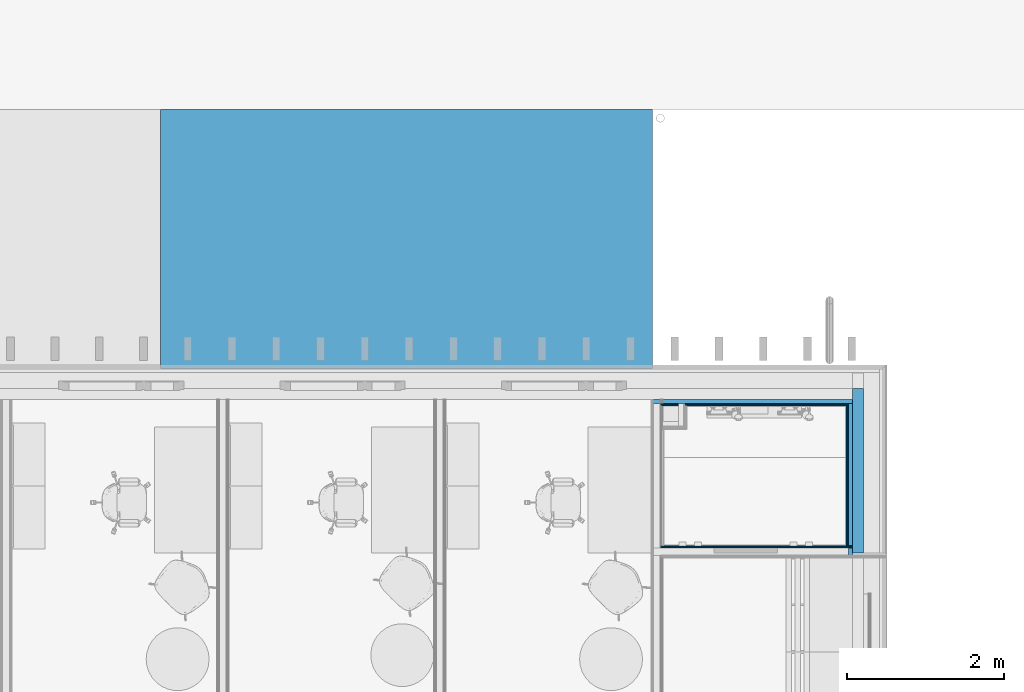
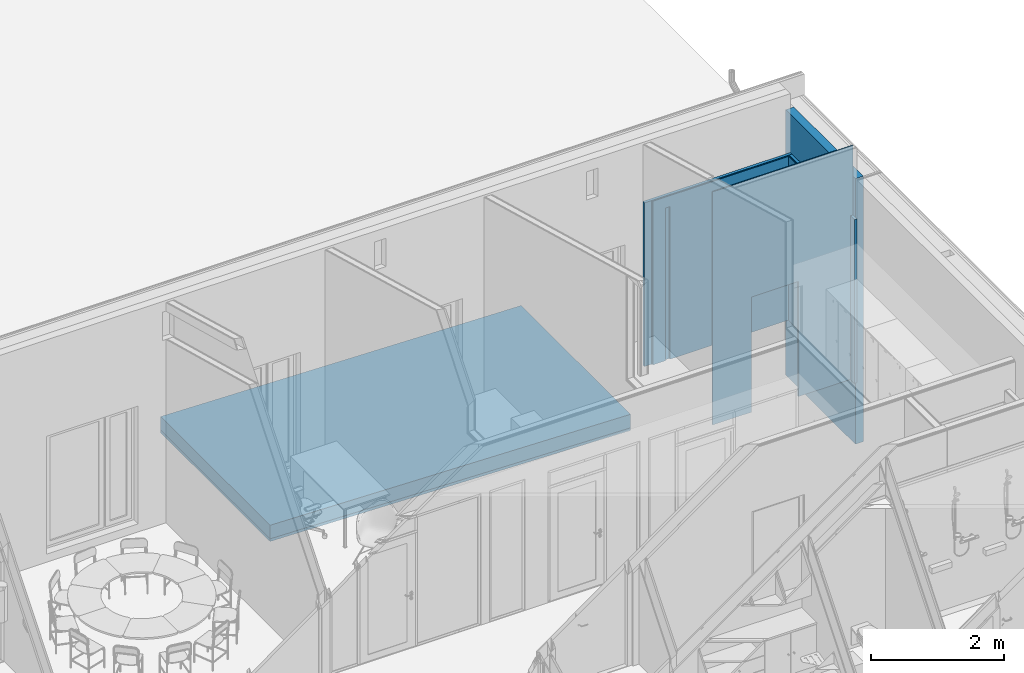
# One storey, part 90 of 153: 11 building element parts, 1 opening, 5 elements without a shape of their own.
"""IFC2X3 building model written with IfcOpenShell, lengths in millimetres."""

from ifc_helpers import new_model, entity, si_unit, converted_unit, derived_unit, money_unit, direction, frame, origin_with_axes, place, context, subcontext, project, spatial, faceted_brep, material, type_object, element, aggregate, save


model = new_model("IFC2X3")

# Units and contexts
model_context = context("Model", 3, precision=0.01, world=origin_with_axes(), true_north=direction((0.0, 1.0)))
body_context = subcontext(model_context, "Body", "Model", "MODEL_VIEW")
ifc_project = project(units=[si_unit("LENGTHUNIT", "METRE", prefix="MILLI"), si_unit("AREAUNIT", "SQUARE_METRE"), si_unit("VOLUMEUNIT", "CUBIC_METRE"), converted_unit("PLANEANGLEUNIT", "DEGREE", entity("IfcPlaneAngleMeasure", 0.0174532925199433), si_unit("PLANEANGLEUNIT", "RADIAN"), dimensions=[0, 0, 0, 0, 0, 0, 0]), money_unit("EUR"), converted_unit("TIMEUNIT", "Year", entity("IfcTimeMeasure", 31557600.0), si_unit("TIMEUNIT", "SECOND"), dimensions=[0, 0, 1, 0, 0, 0, 0]), si_unit("MASSUNIT", "GRAM", prefix="KILO"), si_unit("THERMODYNAMICTEMPERATUREUNIT", "DEGREE_CELSIUS"), si_unit("LUMINOUSINTENSITYUNIT", "LUMEN"), si_unit("ENERGYUNIT", "JOULE", prefix="MEGA"), derived_unit("THERMALCONDUCTANCEUNIT", [(si_unit("POWERUNIT", "WATT"), 1), (si_unit("LENGTHUNIT", "METRE"), -1), (si_unit("THERMODYNAMICTEMPERATUREUNIT", "KELVIN"), -1)]), derived_unit("SPECIFICHEATCAPACITYUNIT", [(si_unit("ENERGYUNIT", "JOULE"), 1), (si_unit("MASSUNIT", "GRAM", prefix="KILO"), -1), (si_unit("THERMODYNAMICTEMPERATUREUNIT", "KELVIN"), -1)]), derived_unit("MASSDENSITYUNIT", [(si_unit("MASSUNIT", "GRAM", prefix="KILO"), 1), (si_unit("VOLUMEUNIT", "CUBIC_METRE"), -1)])], contexts=[model_context])

# Site, building, storey
site_placement = place(None, frame((0.0, 0.0, 8650.0), z_axis=(0.0, 0.0, 1.0), x_axis=(1.0, 0.0, 0.0)))
site = spatial("IfcSite", under=ifc_project, at=site_placement, Name="43301:001:0844", CompositionType="ELEMENT")
building_placement = place(site_placement, origin_with_axes())
building = spatial("IfcBuilding", under=site, at=building_placement, Name="Kuressaare Ametikooli tuulikute mehaanikute õppekorpus", CompositionType="ELEMENT")
storey_placement = place(building_placement, frame((0.0, 0.0, 4100.0), z_axis=(0.0, 0.0, 1.0), x_axis=(1.0, 0.0, 0.0)))
storey = spatial("IfcBuildingStorey", under=building, at=storey_placement, Name="2.korrus", CompositionType="ELEMENT", Elevation=4100.0)

# Wall, opening, building element parts
wall_type_1 = type_object("IfcWallType", Name="SS-2.1 147", PredefinedType="NOTDEFINED")
wall_1_placement = place(storey_placement, frame((133024.9464416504, 26384.06892395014, 0.0), z_axis=(0.0, 0.0, 1.0), x_axis=(-1.0, 0.0, 0.0)))
wall_1 = element("IfcWall", 1, at=wall_1_placement, inside=storey, type_object=wall_type_1, Name="Sisesein")
opening_placement = place(wall_1_placement, frame((1354.878084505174, 0.0, 0.0), z_axis=(0.0, 0.0, 1.0), x_axis=(1.0, 0.0, 0.0)))
element("IfcOpeningElement", 2, at=opening_placement, cuts=wall_1, Name="NU8", context=body_context, shape_type="Brep", body=[
    faceted_brep([(405.0000000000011, 147.9999999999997, 2110.0), (405.0000000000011, 147.9999999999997, 0.0), (-405.0000000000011, 147.9999999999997, 0.0), (-405.0000000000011, 147.9999999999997, 2110.0), (405.0000000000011, -1.000000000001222, 2110.0), (405.0000000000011, -1.000000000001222, 0.0), (-405.0000000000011, -1.000000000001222, 0.0), (-405.0000000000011, -1.000000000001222, 2110.0)], [[[0, 1, 2, 3]], [[4, 5, 1, 0]], [[5, 6, 2, 1]], [[6, 7, 3, 2]], [[7, 4, 0, 3]], [[6, 5, 4, 7]]]),
])
ifc_material_1 = material(Name="Kipsplaat")
building_element_part_1_placement = place(wall_1_placement, origin_with_axes())
building_element_part_1 = element("IfcBuildingElementPart", 3, at=building_element_part_1_placement, material=ifc_material_1, Name="Kipsplaat", context=body_context, shape_type="Brep", body=[
    faceted_brep([(2435.878084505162, 13.00000000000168, 4268.90113351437), (2.098971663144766e-06, 13.00000000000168, 4268.90104435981), (0.0, 13.00000000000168, 3000.0), (49.99999999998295, 13.00000000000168, 3000.0), (49.99999999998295, 13.00000000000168, 0.0), (949.8780845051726, 13.00000000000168, 0.0), (949.8780845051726, 13.00000000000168, 2110.0), (1759.878084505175, 13.00000000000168, 2110.0), (1759.878084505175, 12.99999999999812, 0.0), (2435.878084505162, 12.99999999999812, 0.0), (2.100733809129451e-06, 25.9999999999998, 4272.452564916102), (2435.878084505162, 25.9999999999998, 4272.452654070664), (0.0, 25.9999999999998, 3000.0), (49.99999999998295, 25.9999999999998, 3000.0), (49.99999999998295, 25.9999999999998, 0.0), (949.8780845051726, 25.9999999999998, 0.0), (949.8780845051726, 25.9999999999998, 2110.0), (1759.878084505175, 25.9999999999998, 2110.0), (1759.878084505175, 25.9999999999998, 0.0), (2435.878084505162, 25.9999999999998, 0.0)], [[[0, 1, 2, 3, 4, 5, 6, 7, 8, 9]], [[10, 1, 0, 11]], [[1, 10, 12, 2]], [[13, 3, 2, 12]], [[3, 13, 14, 4]], [[14, 15, 5, 4]], [[16, 6, 5, 15]], [[17, 7, 6, 16]], [[18, 8, 7, 17]], [[9, 8, 18, 19]], [[11, 0, 9, 19]], [[10, 11, 19, 18, 17, 16, 15, 14, 13, 12]]]),
])
building_element_part_2_placement = place(wall_1_placement, origin_with_axes())
building_element_part_2 = element("IfcBuildingElementPart", 4, at=building_element_part_2_placement, material=ifc_material_1, Name="Kipsplaat", context=body_context, shape_type="Brep", body=[
    faceted_brep([(2422.878084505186, 0.0, 4265.349612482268), (2.097237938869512e-06, 0.0, 4265.349523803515), (0.0, 0.0, 3000.0), (62.99999999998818, 0.0, 3000.0), (62.99999999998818, 0.0, 0.0), (949.8780845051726, 0.0, 0.0), (949.8780845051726, 0.0, 2110.0), (1759.878084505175, 0.0, 2110.0), (1759.878084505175, 0.0, 0.0), (2422.878084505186, 0.0, 0.0), (2.098971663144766e-06, 13.00000000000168, 4268.90104435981), (2422.878084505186, 13.00000000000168, 4268.901133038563), (0.0, 13.00000000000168, 3000.0), (62.99999999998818, 13.00000000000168, 3000.0), (62.99999999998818, 13.00000000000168, 0.0), (949.8780845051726, 13.00000000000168, 0.0), (949.8780845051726, 13.00000000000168, 2110.0), (1759.878084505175, 13.00000000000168, 2110.0), (1759.878084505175, 12.99999999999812, 0.0), (2422.878084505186, 12.99999999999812, 0.0)], [[[0, 1, 2, 3, 4, 5, 6, 7, 8, 9]], [[10, 1, 0, 11]], [[1, 10, 12, 2]], [[2, 12, 13, 3]], [[13, 14, 4, 3]], [[14, 15, 5, 4]], [[16, 6, 5, 15]], [[17, 7, 6, 16]], [[18, 8, 7, 17]], [[9, 8, 18, 19]], [[11, 0, 9, 19]], [[10, 11, 19, 18, 17, 16, 15, 14, 13, 12]]]),
])
aggregate(wall_1, [building_element_part_1, building_element_part_2])

# Wall, building element parts
wall_type_2 = type_object("IfcWallType", Name="VS-1.1 76", PredefinedType="NOTDEFINED")
wall_2_placement = place(storey_placement, frame((130468.0683571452, 28168.06892395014, 0.0), z_axis=(0.0, 0.0, 1.0), x_axis=(1.0, 0.0, 0.0)))
wall_2 = element("IfcWall", 5, at=wall_2_placement, inside=storey, type_object=wall_type_2, Name="Sisesein")
ifc_material_2 = material(Name="Air Space")
building_element_part_3_placement = place(wall_2_placement, origin_with_axes())
building_element_part_3 = element("IfcBuildingElementPart", 6, at=building_element_part_3_placement, material=ifc_material_2, Name="Air Space", context=body_context, shape_type="Brep", body=[
    faceted_brep([(2556.878084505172, 25.9999999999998, 3000.0), (2556.878090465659, 25.9999999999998, 0.0), (2556.878090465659, 76.00000000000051, 0.0), (2556.878084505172, 76.00000000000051, 3000.0), (0.0, 25.9999999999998, 3000.0), (0.0, 25.9999999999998, 0.0), (0.0, 76.00000000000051, 0.0), (0.0, 76.00000000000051, 3000.0)], [[[0, 1, 2, 3]], [[1, 0, 4, 5]], [[2, 1, 5, 6]], [[2, 6, 7, 3]], [[0, 3, 7, 4]], [[4, 7, 6, 5]]]),
])
building_element_part_4_placement = place(wall_2_placement, origin_with_axes())
building_element_part_4 = element("IfcBuildingElementPart", 7, at=building_element_part_4_placement, material=ifc_material_1, Name="Kipsplaat", context=body_context, shape_type="Brep", body=[
    faceted_brep([(425.9999999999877, 13.00000000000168, 2799.999999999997), (346.99999999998, 13.00000000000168, 2799.999999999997), (346.99999999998, 25.9999999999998, 2799.999999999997), (425.9999999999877, 25.9999999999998, 2799.999999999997), (425.9999999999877, 13.00000000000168, 0.0), (2506.878084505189, 13.00000000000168, 0.0), (2506.878084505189, 13.00000000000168, 3000.0), (121.0000000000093, 13.00000000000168, 3000.0), (121.0000000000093, 13.00000000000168, 0.0), (346.99999999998, 13.00000000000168, 0.0), (346.99999999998, 25.9999999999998, 0.0), (121.0000000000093, 25.9999999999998, 0.0), (121.0000000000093, 25.9999999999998, 3000.0), (2506.878084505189, 25.9999999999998, 3000.0), (2506.878084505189, 25.9999999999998, 2600.0), (2506.878084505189, 25.9999999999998, 0.0), (425.9999999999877, 25.9999999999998, 0.0)], [[[0, 1, 2, 3]], [[1, 0, 4, 5, 6, 7, 8, 9]], [[10, 2, 1, 9]], [[2, 10, 11, 12, 13, 14, 15, 16, 3]], [[3, 16, 4, 0]], [[4, 16, 15, 5]], [[6, 5, 15, 14, 13]], [[6, 13, 12, 7]], [[8, 7, 12, 11]], [[10, 9, 8, 11]]]),
])
building_element_part_5_placement = place(wall_2_placement, origin_with_axes())
building_element_part_5 = element("IfcBuildingElementPart", 8, at=building_element_part_5_placement, material=ifc_material_1, Name="Kipsplaat", context=body_context, shape_type="Brep", body=[
    faceted_brep([(425.9999999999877, 0.0, 2799.999999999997), (346.99999999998, 0.0, 2799.999999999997), (346.99999999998, 13.00000000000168, 2799.999999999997), (425.9999999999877, 13.00000000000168, 2799.999999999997), (425.9999999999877, 0.0, 0.0), (2493.878084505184, 0.0, 0.0), (2493.878084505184, 0.0, 3000.0), (133.9999999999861, 0.0, 3000.0), (133.9999999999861, 0.0, 0.0), (346.99999999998, 0.0, 0.0), (346.99999999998, 13.00000000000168, 0.0), (133.9999999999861, 13.00000000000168, 0.0), (133.9999999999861, 13.00000000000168, 3000.0), (2493.878084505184, 13.00000000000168, 3000.0), (2493.878084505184, 13.00000000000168, 2600.0), (2493.878084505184, 13.00000000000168, 0.0), (425.9999999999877, 13.00000000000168, 0.0)], [[[0, 1, 2, 3]], [[1, 0, 4, 5, 6, 7, 8, 9]], [[10, 2, 1, 9]], [[2, 10, 11, 12, 13, 14, 15, 16, 3]], [[3, 16, 4, 0]], [[4, 16, 15, 5]], [[6, 5, 15, 14, 13]], [[6, 13, 12, 7]], [[8, 7, 12, 11]], [[10, 9, 8, 11]]]),
])
aggregate(wall_2, [building_element_part_3, building_element_part_4, building_element_part_5])

wall_3_placement = place(storey_placement, frame((132948.9464416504, 28168.06892395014, 0.0), z_axis=(0.0, 0.0, 1.0), x_axis=(0.0, -1.0, 0.0)))
wall_3 = element("IfcWall", 9, at=wall_3_placement, inside=storey, type_object=wall_type_2, Name="Sisesein")
building_element_part_6_placement = place(wall_3_placement, origin_with_axes())
building_element_part_6 = element("IfcBuildingElementPart", 10, at=building_element_part_6_placement, material=ifc_material_2, Name="Air Space", context=body_context, shape_type="Brep", body=[
    faceted_brep([(-25.9999999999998, 76.00000596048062, 0.0), (-25.9999999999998, 75.9999999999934, 3000.0), (1930.999999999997, 75.9999999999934, 3000.0), (1930.999988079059, 75.9999999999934, 0.0), (-25.9999999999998, 26.00000000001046, 0.0), (-25.9999999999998, 26.00000000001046, 3000.0), (1930.999999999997, 26.00000000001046, 3000.0), (1930.999988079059, 26.00000000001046, 0.0)], [[[0, 1, 2, 3]], [[1, 0, 4, 5]], [[1, 5, 6, 2]], [[2, 6, 7, 3]], [[4, 0, 3, 7]], [[4, 7, 6, 5]]]),
])
building_element_part_7_placement = place(wall_3_placement, origin_with_axes())
building_element_part_7 = element("IfcBuildingElementPart", 11, at=building_element_part_7_placement, material=ifc_material_1, Name="Kipsplaat", context=body_context, shape_type="Brep", body=[
    faceted_brep([(-13.00000000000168, 26.00000000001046, 0.0), (-13.00000000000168, 26.00000000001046, 3000.0), (1797.000000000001, 26.00000000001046, 3000.0), (1797.000000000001, 26.00000000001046, 0.0), (-13.00000000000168, 13.00000000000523, 0.0), (-13.00000000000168, 13.00000000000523, 3000.0), (1797.000000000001, 13.00000000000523, 3000.0), (1797.000000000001, 13.00000000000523, 0.0)], [[[0, 1, 2, 3]], [[1, 0, 4, 5]], [[1, 5, 6, 2]], [[6, 7, 3, 2]], [[4, 0, 3, 7]], [[4, 7, 6, 5]]]),
])
building_element_part_8_placement = place(wall_3_placement, origin_with_axes())
building_element_part_8 = element("IfcBuildingElementPart", 12, at=building_element_part_8_placement, material=ifc_material_1, Name="Kipsplaat", context=body_context, shape_type="Brep", body=[
    faceted_brep([(0.0, 13.00000000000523, 0.0), (0.0, 13.00000000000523, 3000.0), (1783.999999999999, 13.00000000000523, 3000.0), (1783.999999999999, 13.00000000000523, 0.0), (0.0, 0.0, 0.0), (0.0, 0.0, 3000.0), (1783.999999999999, 0.0, 3000.0), (1783.999999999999, 0.0, 0.0)], [[[0, 1, 2, 3]], [[1, 0, 4, 5]], [[1, 5, 6, 2]], [[6, 7, 3, 2]], [[4, 0, 3, 7]], [[4, 7, 6, 5]]]),
])
aggregate(wall_3, [building_element_part_6, building_element_part_7, building_element_part_8])

# Wall, building element part
wall_type_3 = type_object("IfcWallType", Name="VS1 437", PredefinedType="NOTDEFINED")
wall_4_placement = place(storey_placement, frame((133024.9464416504, 26292.98866271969, -1166.360763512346), z_axis=(0.0, 0.0, 1.0), x_axis=(0.0, 1.0, 0.0)))
wall_4 = element("IfcWall", 13, at=wall_4_placement, inside=storey, type_object=wall_type_3, Name="Välissein")
ifc_material_3 = material(Name="Puit - CLT")
building_element_part_9_placement = place(wall_4_placement, origin_with_axes())
building_element_part_9 = element("IfcBuildingElementPart", 14, at=building_element_part_9_placement, material=ifc_material_3, Name="Puit - CLT", context=body_context, shape_type="Brep", body=[
    faceted_brep([(2091.080261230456, -139.9999999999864, 0.0), (0.0, -139.9999999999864, 0.0), (0.0, 0.0, 0.0), (2091.080261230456, 0.0, 0.0), (2091.080261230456, -139.9999999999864, 4866.360763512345), (0.0, -139.9999999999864, 4866.360763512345), (0.0, 0.0, 4866.360763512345), (2091.080261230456, 0.0, 4866.360763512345)], [[[0, 1, 2, 3]], [[4, 5, 1, 0]], [[2, 1, 5, 6]], [[3, 2, 6, 7]], [[3, 7, 4, 0]], [[7, 6, 5, 4]]]),
])
aggregate(wall_4, [building_element_part_9])

# Roof, building element parts
roof_placement = place(storey_placement, frame((124233.9258793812, 28584.06892395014, -1295.039384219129), z_axis=(0.0, 0.0, 1.0), x_axis=(0.0, 1.0, 0.0)))
roof = element("IfcRoof", 15, at=roof_placement, inside=storey, Name="KL1", ShapeType="NOTDEFINED")
ifc_material_4 = material(Name="Soojustus - Mineraalvill jäik")
building_element_part_10_placement = place(roof_placement, origin_with_axes())
building_element_part_10 = element("IfcBuildingElementPart", 16, at=building_element_part_10_placement, material=ifc_material_4, Name="Soojustus - Mineraalvill jäik", context=body_context, shape_type="Brep", body=[
    faceted_brep([(3344.758304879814, -6250.411973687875, 144.9115279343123), (3344.758211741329, 0.0, 298.0894738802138), (56.50482480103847, 0.0, 298.0894738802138), (56.50482480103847, -6250.411973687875, 144.9115279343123), (3344.758305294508, -6250.411973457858, -103.1629335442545), (3344.758212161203, 3.238653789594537e-07, 50.01501240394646), (56.50482471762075, 3.238653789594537e-07, 50.01501240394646), (56.50482471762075, -6250.411973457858, -103.1629335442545)], [[[0, 1, 2, 3]], [[0, 4, 5, 1]], [[1, 5, 6, 2]], [[2, 6, 7, 3]], [[3, 7, 4, 0]], [[4, 7, 6, 5]]]),
])
building_element_part_11_placement = place(roof_placement, origin_with_axes())
building_element_part_11 = element("IfcBuildingElementPart", 17, at=building_element_part_11_placement, material=ifc_material_4, Name="Soojustus - Mineraalvill jäik", context=body_context, shape_type="Brep", body=[
    faceted_brep([(56.50482471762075, -6250.411973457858, -103.1629335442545), (56.5048247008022, -6250.411973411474, -153.1779463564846), (3344.758305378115, -6250.411973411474, -153.1779463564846), (3344.758305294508, -6250.411973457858, -103.1629335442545), (56.50482471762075, 3.238653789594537e-07, 50.01501240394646), (56.5048247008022, 3.891642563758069e-07, -4.078199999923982e-07), (3344.758212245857, 3.891642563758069e-07, -4.078199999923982e-07), (3344.758212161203, 3.238653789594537e-07, 50.01501240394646)], [[[0, 1, 2, 3]], [[4, 5, 1, 0]], [[1, 5, 6, 2]], [[3, 2, 6, 7]], [[3, 7, 4, 0]], [[7, 6, 5, 4]]]),
])
aggregate(roof, [building_element_part_10, building_element_part_11])

save(model, "model.ifc")
